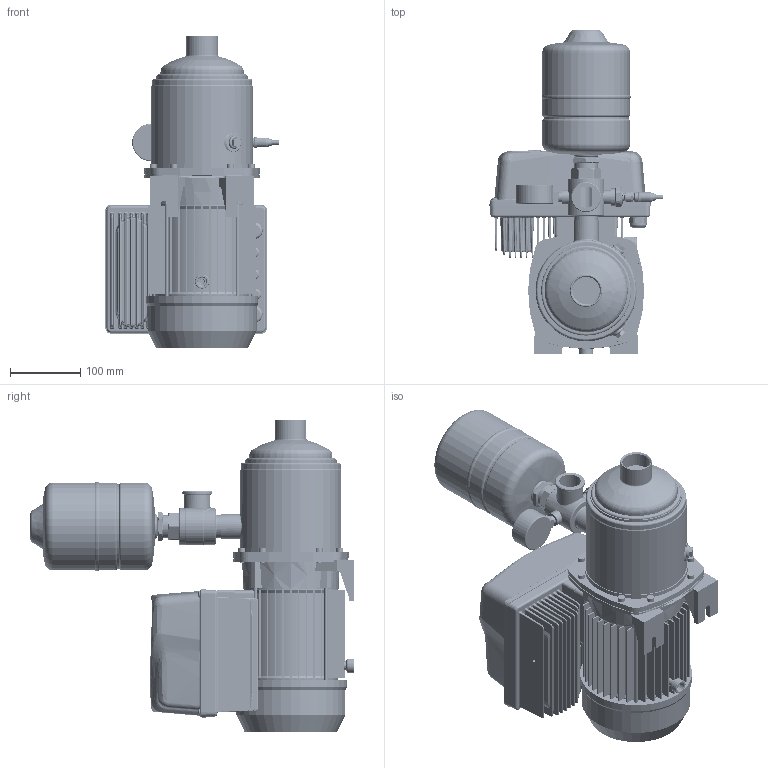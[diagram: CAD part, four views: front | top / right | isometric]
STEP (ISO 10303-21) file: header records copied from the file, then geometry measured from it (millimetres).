
FILE_DESCRIPTION((''),'2;1');
FILE_NAME('1GPE_MATRIX_5-5T_1-3_ESPM_ASM','2024-12-02T15:00:41',('Utente'),('"Ebara Pumps Europe S.p.A"'),'CREO PARAMETRIC BY PTC INC, 2022124','CREO PARAMETRIC BY PTC INC, 2022124','');
FILE_SCHEMA(('AUTOMOTIVE_DESIGN { 1 0 10303 214 1 1 1 1 }'));
Length unit declared in the file: millimetre
Products named in the file (14): EP_MATRIX_5-5T_1-3_IE3; EP_MATRIX_5-5T_1-3_ASM; ADATTATORE_E-SPD_MEC80-90-100; E-SPD_ADATTATORE_MEC80-90-100_ASM; BACK_E-SPD_PLUS_2200-4000; COVER_E-SPD_PLUS_2200-4000; COM_E-SPDM_MEC80-90-100_ORIZ_ASM; RACC_5_VIE_NR_1_A304; TRASD_ASHCROFT_M12_GEN; CABLE_M12_FEMALE; TRASD_ASHCROFT_10B_MP_362331051_ASM; MAN_RAD_D50_10BAR_361600160; VASO_ESPANSIONE_2L_GWS; 1GPE_MATRIX_5-5T_1-3_ESPM_ASM
Assembly tree (13 placements, depth 3):
  1GPE_MATRIX_5-5T_1-3_ESPM_ASM
    EP_MATRIX_5-5T_1-3_ASM
      EP_MATRIX_5-5T_1-3_IE3
    E-SPD_ADATTATORE_MEC80-90-100_ASM
      ADATTATORE_E-SPD_MEC80-90-100
    COM_E-SPDM_MEC80-90-100_ORIZ_ASM
      BACK_E-SPD_PLUS_2200-4000
      COVER_E-SPD_PLUS_2200-4000
    RACC_5_VIE_NR_1_A304
    TRASD_ASHCROFT_10B_MP_362331051_ASM
      TRASD_ASHCROFT_M12_GEN
      CABLE_M12_FEMALE
    MAN_RAD_D50_10BAR_361600160
    VASO_ESPANSIONE_2L_GWS
Bounding box: 246.19 x 461.11 x 442.8 mm (x, y, z)
Volume: 5373884.6 mm3; surface area: 1313689.3 mm2
Topology: 91 solids, 512 shells, 12011 faces, 30520 edges, 18116 vertices
Faces by surface type: plane 6003, cylinder 2630, sphere 1047, bspline 948, cone 482, torus 466, extrusion 435
Entity records: 488916 total; most frequent: CARTESIAN_POINT 173735, ORIENTED_EDGE 56205, DIRECTION 53521, EDGE_CURVE 29043, VERTEX_POINT 17996, VECTOR 17859, AXIS2_PLACEMENT_3D 17812, LINE 17424
